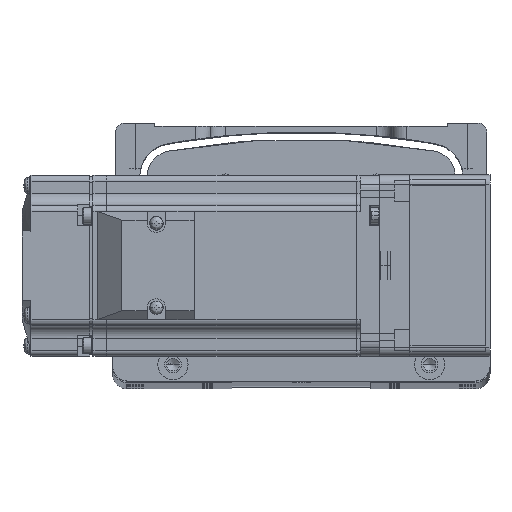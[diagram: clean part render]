
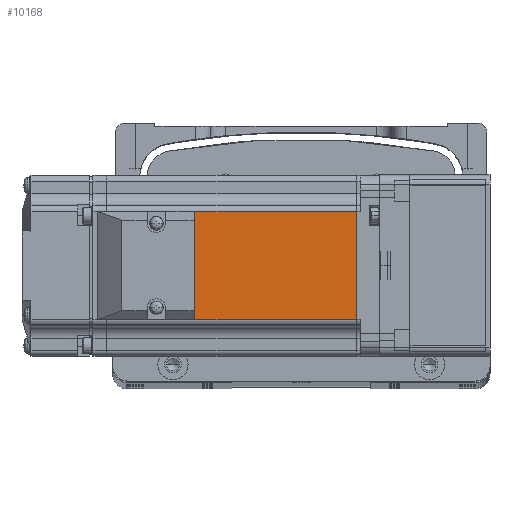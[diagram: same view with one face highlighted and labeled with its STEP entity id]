
A CAD part, top view. The second image highlights one B-rep face of the part: STEP entity #10168.
In plain terms, the highlighted planar face has unit normal (0, 0, 1) as drawn and (0, 1, 0) by its records, which use the part's own axes.
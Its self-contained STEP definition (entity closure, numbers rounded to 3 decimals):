
#8360 = VECTOR ( 'NONE', #15592, 1000. ) ;
#8448 = VERTEX_POINT ( 'NONE', #24682 ) ;
#9673 = VECTOR ( 'NONE', #63429, 1000. ) ;
#10168 = ADVANCED_FACE ( 'NONE', ( #30425 ), #16271, .T. ) ;
#13854 = VERTEX_POINT ( 'NONE', #49594 ) ;
#15418 = EDGE_CURVE ( 'NONE', #8448, #13854, #64211, .T. ) ;
#15592 = DIRECTION ( 'NONE',  ( 0., 0., 1. ) ) ;
#16271 = PLANE ( 'NONE',  #73730 ) ;
#24195 = ORIENTED_EDGE ( 'NONE', *, *, #78120, .T. ) ;
#24539 = VERTEX_POINT ( 'NONE', #30121 ) ;
#24682 = CARTESIAN_POINT ( 'NONE',  ( -7.75, 30., -18. ) ) ;
#25842 = LINE ( 'NONE', #68168, #8360 ) ;
#30121 = CARTESIAN_POINT ( 'NONE',  ( -90.45, 30., 18. ) ) ;
#30425 = FACE_OUTER_BOUND ( 'NONE', #33190, .T. ) ;
#33190 = EDGE_LOOP ( 'NONE', ( #45002, #35807, #57730, #24195 ) ) ;
#35807 = ORIENTED_EDGE ( 'NONE', *, *, #51181, .T. ) ;
#36377 = DIRECTION ( 'NONE',  ( 0., 1., 0. ) ) ;
#39450 = VECTOR ( 'NONE', #48241, 1000. ) ;
#43929 = CARTESIAN_POINT ( 'NONE',  ( -7.75, 30., 0. ) ) ;
#44843 = DIRECTION ( 'NONE',  ( 1., 0., 0. ) ) ;
#45002 = ORIENTED_EDGE ( 'NONE', *, *, #15418, .F. ) ;
#48241 = DIRECTION ( 'NONE',  ( -1., 0., 0. ) ) ;
#48468 = LINE ( 'NONE', #64353, #63878 ) ;
#49581 = CARTESIAN_POINT ( 'NONE',  ( -90.45, 30., -18. ) ) ;
#49594 = CARTESIAN_POINT ( 'NONE',  ( -7.75, 30., 18. ) ) ;
#51181 = EDGE_CURVE ( 'NONE', #8448, #72546, #56915, .T. ) ;
#56915 = LINE ( 'NONE', #81039, #39450 ) ;
#57730 = ORIENTED_EDGE ( 'NONE', *, *, #64638, .T. ) ;
#63429 = DIRECTION ( 'NONE',  ( 0., 0., 1. ) ) ;
#63878 = VECTOR ( 'NONE', #44843, 1000. ) ;
#64211 = LINE ( 'NONE', #43929, #9673 ) ;
#64353 = CARTESIAN_POINT ( 'NONE',  ( -6.5, 30., 18. ) ) ;
#64638 = EDGE_CURVE ( 'NONE', #72546, #24539, #25842, .T. ) ;
#68168 = CARTESIAN_POINT ( 'NONE',  ( -90.45, 30., 0. ) ) ;
#72546 = VERTEX_POINT ( 'NONE', #49581 ) ;
#73730 = AXIS2_PLACEMENT_3D ( 'NONE', #75727, #36377, #82374 ) ;
#75727 = CARTESIAN_POINT ( 'NONE',  ( -6.5, 30., 25. ) ) ;
#78120 = EDGE_CURVE ( 'NONE', #24539, #13854, #48468, .T. ) ;
#81039 = CARTESIAN_POINT ( 'NONE',  ( -6.5, 30., -18. ) ) ;
#82374 = DIRECTION ( 'NONE',  ( 0., 0., 1. ) ) ;
